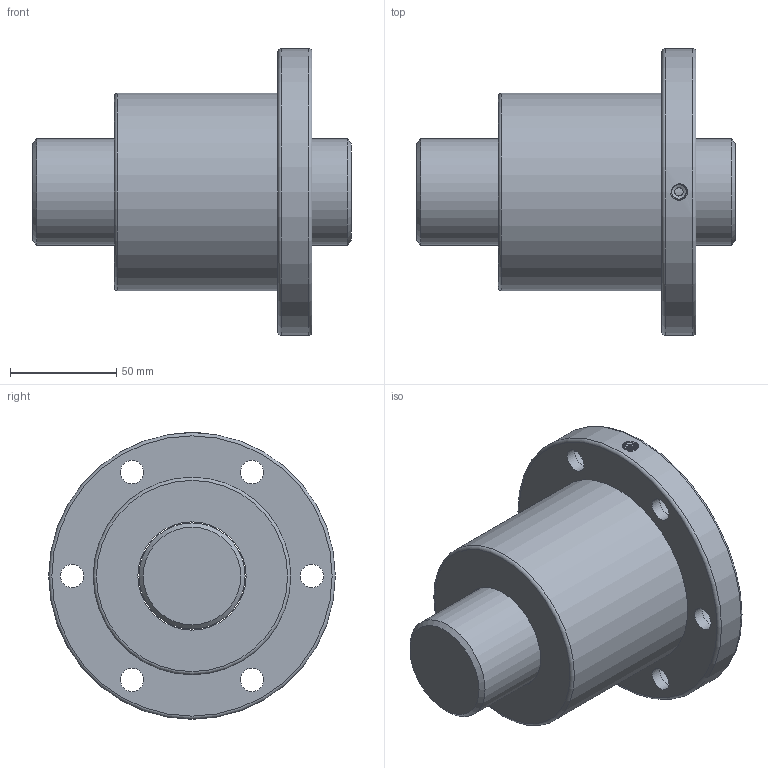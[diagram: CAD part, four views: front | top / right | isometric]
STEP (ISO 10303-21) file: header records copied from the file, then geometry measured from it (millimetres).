
FILE_DESCRIPTION(/* description */ ('Unknown','CAx-IF Rec.Pracs.---Representation and Presentation of Product Manufacturing Information (PMI)---4.0---2014-10-13','CAx-IF Rec.Pracs.---3D Tessellated Geometry---0.4---2014-09-14','2;1'),/* implementation_level */ '2;1');
FILE_NAME(/* name */ 'SFV05010-4.8',/* time_stamp */ '2020-12-08T11:10:59+08:00',/* author */ ('Unknown'),/* organization */ ('Unknown'),/* preprocessor_version */ 'ST-DEVELOPER v16.7',/* originating_system */ 'Solid Edge',/* authorisation */ 'Unknown');
FILE_SCHEMA (('AP242_MANAGED_MODEL_BASED_3D_ENGINEERING_MIM_LF { 1 0 10303 442 1 1 4 }'));
Length unit declared in the file: millimetre
Products named in the file (1): SFV05010-4.8
Bounding box: 150 x 135 x 135 mm (x, y, z)
Volume: 835955.3 mm3; surface area: 99311.2 mm2
Topology: 2 solids, 2 shells, 40 faces, 79 edges, 50 vertices
Faces by surface type: cylinder 20, plane 12, torus 3, cone 3, bspline 2
Full cylindrical faces by diameter (mm): 4 x1, 6.917 x1, 11 x6, 17.5 x6, 50 x1, 51 x1, 93 x1, 135 x1
Entity records: 3222 total; most frequent: CARTESIAN_POINT 2386, DIRECTION 168, ORIENTED_EDGE 106, EDGE_LOOP 87, FACE_BOUND 87, AXIS2_PLACEMENT_3D 85, EDGE_CURVE 53, VERTEX_POINT 48
